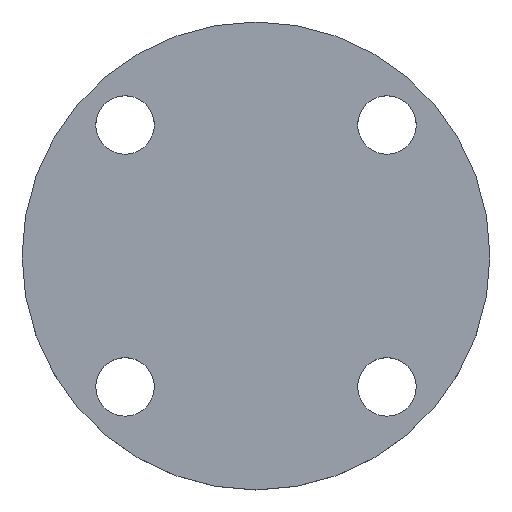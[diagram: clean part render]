
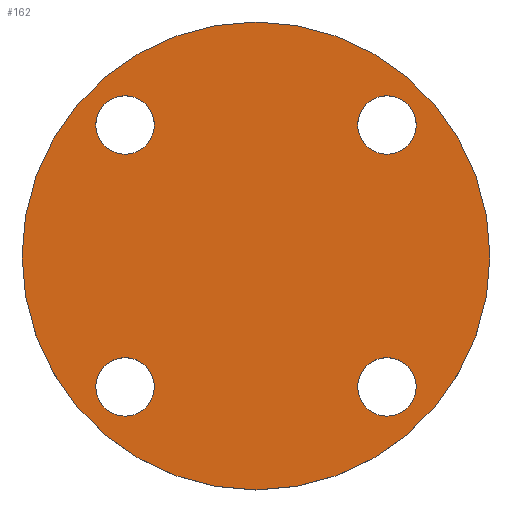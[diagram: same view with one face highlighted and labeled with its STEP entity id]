
A CAD part, top view. The second image highlights one B-rep face of the part: STEP entity #162.
In plain terms, the highlighted planar face has unit normal (0, 0, 1).
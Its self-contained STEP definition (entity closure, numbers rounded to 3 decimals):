
#15=FACE_BOUND('',#38,.T.);
#16=FACE_BOUND('',#39,.T.);
#17=FACE_BOUND('',#40,.T.);
#18=FACE_BOUND('',#41,.T.);
#23=PLANE('',#205);
#30=FACE_OUTER_BOUND('',#37,.T.);
#37=EDGE_LOOP('',(#136,#137));
#38=EDGE_LOOP('',(#138,#139));
#39=EDGE_LOOP('',(#140,#141));
#40=EDGE_LOOP('',(#142,#143));
#41=EDGE_LOOP('',(#144,#145));
#57=CIRCLE('',#185,7.5);
#58=CIRCLE('',#186,7.5);
#60=CIRCLE('',#189,7.5);
#61=CIRCLE('',#190,7.5);
#63=CIRCLE('',#193,7.5);
#64=CIRCLE('',#194,7.5);
#66=CIRCLE('',#197,7.5);
#67=CIRCLE('',#198,7.5);
#69=CIRCLE('',#201,60.);
#70=CIRCLE('',#202,60.);
#73=VERTEX_POINT('',#262);
#74=VERTEX_POINT('',#263);
#76=VERTEX_POINT('',#270);
#77=VERTEX_POINT('',#271);
#79=VERTEX_POINT('',#278);
#80=VERTEX_POINT('',#279);
#82=VERTEX_POINT('',#286);
#83=VERTEX_POINT('',#287);
#85=VERTEX_POINT('',#294);
#86=VERTEX_POINT('',#295);
#89=EDGE_CURVE('',#73,#74,#57,.T.);
#90=EDGE_CURVE('',#74,#73,#58,.T.);
#93=EDGE_CURVE('',#76,#77,#60,.T.);
#94=EDGE_CURVE('',#77,#76,#61,.T.);
#97=EDGE_CURVE('',#79,#80,#63,.T.);
#98=EDGE_CURVE('',#80,#79,#64,.T.);
#101=EDGE_CURVE('',#82,#83,#66,.T.);
#102=EDGE_CURVE('',#83,#82,#67,.T.);
#105=EDGE_CURVE('',#85,#86,#69,.T.);
#106=EDGE_CURVE('',#86,#85,#70,.T.);
#136=ORIENTED_EDGE('',*,*,#105,.T.);
#137=ORIENTED_EDGE('',*,*,#106,.T.);
#138=ORIENTED_EDGE('',*,*,#89,.T.);
#139=ORIENTED_EDGE('',*,*,#90,.T.);
#140=ORIENTED_EDGE('',*,*,#93,.T.);
#141=ORIENTED_EDGE('',*,*,#94,.T.);
#142=ORIENTED_EDGE('',*,*,#97,.T.);
#143=ORIENTED_EDGE('',*,*,#98,.T.);
#144=ORIENTED_EDGE('',*,*,#101,.T.);
#145=ORIENTED_EDGE('',*,*,#102,.T.);
#162=ADVANCED_FACE('',(#30,#15,#16,#17,#18),#23,.T.);
#185=AXIS2_PLACEMENT_3D('',#264,#211,#212);
#186=AXIS2_PLACEMENT_3D('',#265,#213,#214);
#189=AXIS2_PLACEMENT_3D('',#272,#220,#221);
#190=AXIS2_PLACEMENT_3D('',#273,#222,#223);
#193=AXIS2_PLACEMENT_3D('',#280,#229,#230);
#194=AXIS2_PLACEMENT_3D('',#281,#231,#232);
#197=AXIS2_PLACEMENT_3D('',#288,#238,#239);
#198=AXIS2_PLACEMENT_3D('',#289,#240,#241);
#201=AXIS2_PLACEMENT_3D('',#296,#247,#248);
#202=AXIS2_PLACEMENT_3D('',#297,#249,#250);
#205=AXIS2_PLACEMENT_3D('',#303,#256,#257);
#211=DIRECTION('center_axis',(0.,0.,-1.));
#212=DIRECTION('ref_axis',(0.,-1.,0.));
#213=DIRECTION('center_axis',(0.,0.,-1.));
#214=DIRECTION('ref_axis',(0.,-1.,0.));
#220=DIRECTION('center_axis',(0.,0.,-1.));
#221=DIRECTION('ref_axis',(-1.,0.,0.));
#222=DIRECTION('center_axis',(0.,0.,-1.));
#223=DIRECTION('ref_axis',(-1.,0.,0.));
#229=DIRECTION('center_axis',(0.,0.,-1.));
#230=DIRECTION('ref_axis',(0.,1.,0.));
#231=DIRECTION('center_axis',(0.,0.,-1.));
#232=DIRECTION('ref_axis',(0.,1.,0.));
#238=DIRECTION('center_axis',(0.,0.,-1.));
#239=DIRECTION('ref_axis',(1.,0.,0.));
#240=DIRECTION('center_axis',(0.,0.,-1.));
#241=DIRECTION('ref_axis',(1.,0.,0.));
#247=DIRECTION('center_axis',(0.,0.,1.));
#248=DIRECTION('ref_axis',(1.,0.,0.));
#249=DIRECTION('center_axis',(0.,0.,1.));
#250=DIRECTION('ref_axis',(1.,0.,0.));
#256=DIRECTION('center_axis',(0.,0.,1.));
#257=DIRECTION('ref_axis',(1.,0.,0.));
#262=CARTESIAN_POINT('',(33.588,26.088,12.));
#263=CARTESIAN_POINT('',(33.588,41.088,12.));
#264=CARTESIAN_POINT('Origin',(33.588,33.588,12.));
#265=CARTESIAN_POINT('Origin',(33.588,33.588,12.));
#270=CARTESIAN_POINT('',(26.088,-33.588,12.));
#271=CARTESIAN_POINT('',(41.088,-33.588,12.));
#272=CARTESIAN_POINT('Origin',(33.588,-33.588,12.));
#273=CARTESIAN_POINT('Origin',(33.588,-33.588,12.));
#278=CARTESIAN_POINT('',(-33.588,-26.088,12.));
#279=CARTESIAN_POINT('',(-33.588,-41.088,12.));
#280=CARTESIAN_POINT('Origin',(-33.588,-33.588,12.));
#281=CARTESIAN_POINT('Origin',(-33.588,-33.588,12.));
#286=CARTESIAN_POINT('',(-26.088,33.588,12.));
#287=CARTESIAN_POINT('',(-41.088,33.588,12.));
#288=CARTESIAN_POINT('Origin',(-33.588,33.588,12.));
#289=CARTESIAN_POINT('Origin',(-33.588,33.588,12.));
#294=CARTESIAN_POINT('',(60.,0.,12.));
#295=CARTESIAN_POINT('',(-60.,0.,12.));
#296=CARTESIAN_POINT('Origin',(0.,0.,12.));
#297=CARTESIAN_POINT('Origin',(0.,0.,12.));
#303=CARTESIAN_POINT('Origin',(0.,0.,12.));
